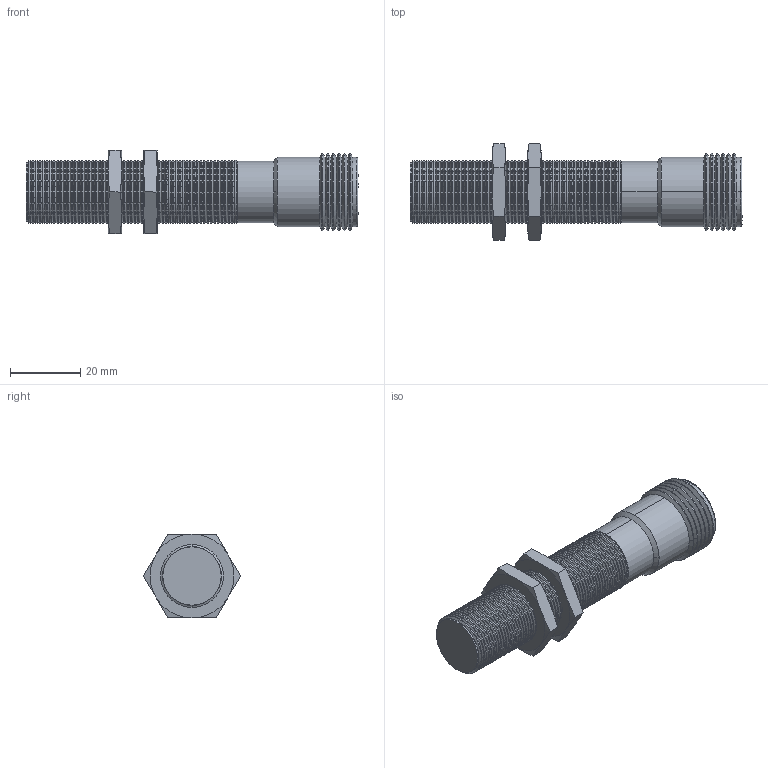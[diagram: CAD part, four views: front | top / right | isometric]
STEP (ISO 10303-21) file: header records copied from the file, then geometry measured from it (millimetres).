
FILE_DESCRIPTION (( 'STEP AP203' ), '1' );
FILE_NAME ('90-XXXX-023.STEP', '2015-10-28T13:17:39', ( 'Sam' ), ( 'Spade' ), 'SwSTEP 2.0', 'SolidWorks 2002296', '' );
FILE_SCHEMA (( 'CONFIG_CONTROL_DESIGN' ));
Length unit declared in the file: inch
Products named in the file (10): 90-XXXX-023; Imported229; Imported228; Imported227; Imported226; Imported225; Imported230; Imported222; Imported223; Imported224
Assembly tree (9 placements, depth 2):
  90-XXXX-023
    Imported223
    Imported226
    Imported229
    Imported228
    Imported230
    Imported222
    Imported227
    Imported225
    Imported224
Bounding box: 94.84 x 27.69 x 23.98 mm (x, y, z)
Volume: 25304.7 mm3; surface area: 14246.5 mm2
Topology: 9 solids, 9 shells, 649 faces, 1327 edges, 714 vertices
Faces by surface type: cone 336, cylinder 250, plane 55, bspline 8
Entity records: 17901 total; most frequent: DIRECTION 3263, CARTESIAN_POINT 2996, ORIENTED_EDGE 2642, AXIS2_PLACEMENT_3D 1341, EDGE_CURVE 1321, VERTEX_POINT 714, CIRCLE 688, EDGE_LOOP 677
